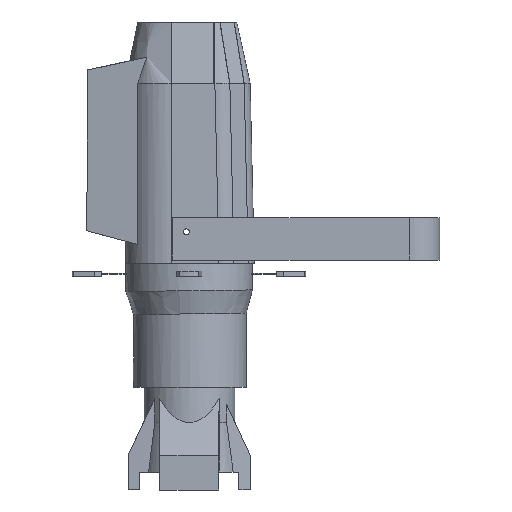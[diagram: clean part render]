
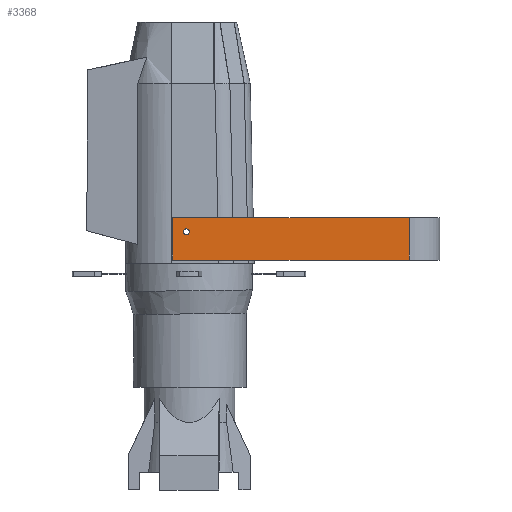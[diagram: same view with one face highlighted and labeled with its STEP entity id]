
A CAD part, left-side view. The second image highlights one B-rep face of the part: STEP entity #3368.
In plain terms, the highlighted planar face has unit normal (-1, 0, 0).
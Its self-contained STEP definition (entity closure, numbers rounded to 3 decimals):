
#124=FACE_BOUND('',#722,.T.);
#230=PLANE('',#3691);
#318=CIRCLE('',#3648,4.263);
#520=FACE_OUTER_BOUND('',#721,.T.);
#721=EDGE_LOOP('',(#3121,#3122,#3123,#3124));
#722=EDGE_LOOP('',(#3125));
#997=LINE('',#6442,#1302);
#1005=LINE('',#6474,#1310);
#1027=LINE('',#6533,#1332);
#1028=LINE('',#6535,#1333);
#1302=VECTOR('',#4498,10.);
#1310=VECTOR('',#4524,10.);
#1332=VECTOR('',#4590,10.);
#1333=VECTOR('',#4593,10.);
#1638=VERTEX_POINT('',#6416);
#1646=VERTEX_POINT('',#6440);
#1647=VERTEX_POINT('',#6441);
#1662=VERTEX_POINT('',#6473);
#1677=VERTEX_POINT('',#6531);
#2106=EDGE_CURVE('',#1638,#1638,#318,.T.);
#2118=EDGE_CURVE('',#1646,#1647,#997,.T.);
#2134=EDGE_CURVE('',#1662,#1647,#1005,.T.);
#2164=EDGE_CURVE('',#1646,#1677,#1027,.T.);
#2165=EDGE_CURVE('',#1662,#1677,#1028,.T.);
#3121=ORIENTED_EDGE('',*,*,#2164,.T.);
#3122=ORIENTED_EDGE('',*,*,#2165,.F.);
#3123=ORIENTED_EDGE('',*,*,#2134,.T.);
#3124=ORIENTED_EDGE('',*,*,#2118,.F.);
#3125=ORIENTED_EDGE('',*,*,#2106,.T.);
#3368=ADVANCED_FACE('',(#520,#124),#230,.T.);
#3648=AXIS2_PLACEMENT_3D('',#6417,#4470,#4471);
#3691=AXIS2_PLACEMENT_3D('',#6534,#4591,#4592);
#4470=DIRECTION('center_axis',(1.,0.,0.));
#4471=DIRECTION('ref_axis',(0.,1.,0.));
#4498=DIRECTION('',(0.,1.,0.));
#4524=DIRECTION('',(0.,0.,-1.));
#4590=DIRECTION('',(0.,0.,1.));
#4591=DIRECTION('center_axis',(-1.,0.,0.));
#4592=DIRECTION('ref_axis',(0.,-1.,0.));
#4593=DIRECTION('',(0.,-1.,0.));
#6416=CARTESIAN_POINT('',(-114.5,-0.263,-75.361));
#6417=CARTESIAN_POINT('Origin',(-114.5,4.,-75.361));
#6440=CARTESIAN_POINT('',(-114.5,-313.,-115.361));
#6441=CARTESIAN_POINT('',(-114.5,23.5,-115.361));
#6442=CARTESIAN_POINT('',(-114.5,4.,-115.361));
#6473=CARTESIAN_POINT('',(-114.5,23.5,-55.361));
#6474=CARTESIAN_POINT('',(-114.5,23.5,-85.361));
#6531=CARTESIAN_POINT('',(-114.5,-313.,-55.361));
#6533=CARTESIAN_POINT('',(-114.5,-313.,-85.361));
#6534=CARTESIAN_POINT('Origin',(-114.5,23.5,-85.361));
#6535=CARTESIAN_POINT('',(-114.5,4.,-55.361));
